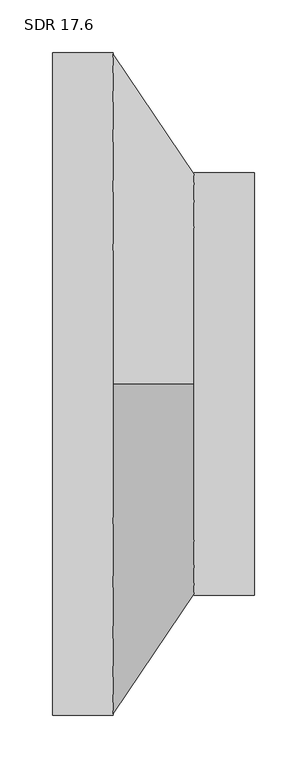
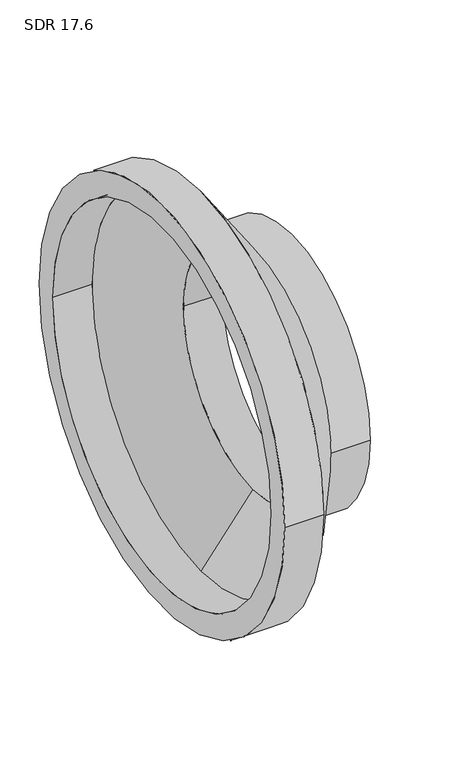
"""IFC4 building model written with IfcOpenShell, lengths in millimetres: pipe fitting geometry, Aquatherm - Reducing Coupling Combined - METRIC : SDR 17.6."""

from ifc_helpers import new_model, si_unit, frame, origin, place, context, project, spatial, polyline, circle_curve, source, transform, mapped, element, save
from ifc_brep_helpers import plane_surface, cylinder_surface, revolved_surface, advanced_brep


def sdr_17_6_ab0138cd(model_context):
    return source(origin(), model_context, "Body", "AdvancedBrep", [
        advanced_brep(
        [(-96.012, -314.96, 0.0), (-96.012, 314.96, 0.0), (-96.012, -279.1690909, 0.0), (-96.012, 279.1690909, 0.0), (-38.4048, 279.1690909, 0.0), (-38.4048, 0.0, 279.1690909), (-38.4048, -279.1690909, 0.0), (-38.4048, 0.0, -279.1690909), (-38.4048, 314.96, 0.0), (-38.4048, 0.0, -314.96), (-38.4048, -314.96, 0.0), (-38.4048, 0.0, 314.96), (96.012, -200.66, 0.0), (96.012, 200.66, 0.0), (96.012, -177.8577273, 0.0), (96.012, 177.8577273, 0.0), (38.4048, -200.66, 0.0), (38.4048, 0.0, -200.66), (38.4048, 200.66, 0.0), (38.4048, 0.0, 200.66), (38.4048, -177.8577273, 0.0), (38.4048, 0.0, 177.8577273), (38.4048, 177.8577273, 0.0), (38.4048, 0.0, -177.8577273)],
        [
            (0, 1, circle_curve(frame((-96.012, 0.0, 0.0), z_axis=(-1.0, 0.0, 0.0), x_axis=(0.0, 1.0, 0.0)), 314.96)),
            (1, 0, circle_curve(frame((-96.012, 0.0, 0.0), z_axis=(-1.0, 0.0, 0.0), x_axis=(0.0, 1.0, 0.0)), 314.96)),
            (2, 3, circle_curve(frame((-96.012, 0.0, 0.0), z_axis=(1.0, 0.0, 0.0), x_axis=(0.0, 1.0, 0.0)), 279.1690909)),
            (3, 2, circle_curve(frame((-96.012, 0.0, 0.0), z_axis=(1.0, 0.0, 0.0), x_axis=(0.0, 1.0, 0.0)), 279.1690909)),
            (3, 4),
            (4, 5, circle_curve(frame((-38.4048, 0.0, 0.0), z_axis=(1.0, 0.0, 0.0), x_axis=(0.0, 1.0, 0.0)), 279.1690909)),
            (5, 6, circle_curve(frame((-38.4048, 0.0, 0.0), z_axis=(1.0, 0.0, 0.0), x_axis=(0.0, 1.0, 0.0)), 279.1690909)),
            (6, 2),
            (6, 7, circle_curve(frame((-38.4048, 0.0, 0.0), z_axis=(1.0, 0.0, 0.0), x_axis=(0.0, 1.0, 0.0)), 279.1690909)),
            (7, 4, circle_curve(frame((-38.4048, 0.0, 0.0), z_axis=(1.0, 0.0, 0.0), x_axis=(0.0, 1.0, 0.0)), 279.1690909)),
            (1, 8),
            (8, 9, circle_curve(frame((-38.4048, 0.0, 0.0), z_axis=(-1.0, 0.0, 0.0), x_axis=(0.0, 1.0, 0.0)), 314.96)),
            (9, 10, circle_curve(frame((-38.4048, 0.0, 0.0), z_axis=(-1.0, 0.0, 0.0), x_axis=(0.0, 1.0, 0.0)), 314.96)),
            (10, 0),
            (10, 11, circle_curve(frame((-38.4048, 0.0, 0.0), z_axis=(-1.0, 0.0, 0.0), x_axis=(0.0, 1.0, 0.0)), 314.96)),
            (11, 8, circle_curve(frame((-38.4048, 0.0, 0.0), z_axis=(-1.0, 0.0, 0.0), x_axis=(0.0, 1.0, 0.0)), 314.96)),
            (12, 13, circle_curve(frame((96.012, 0.0, 0.0), z_axis=(1.0, 0.0, 0.0), x_axis=(0.0, 1.0, 0.0)), 200.66)),
            (13, 12, circle_curve(frame((96.012, 0.0, 0.0), z_axis=(1.0, 0.0, 0.0), x_axis=(0.0, 1.0, 0.0)), 200.66)),
            (14, 15, circle_curve(frame((96.012, 0.0, 0.0), z_axis=(-1.0, 0.0, 0.0), x_axis=(0.0, 1.0, 0.0)), 177.8577273)),
            (15, 14, circle_curve(frame((96.012, 0.0, 0.0), z_axis=(-1.0, 0.0, 0.0), x_axis=(0.0, 1.0, 0.0)), 177.8577273)),
            (12, 16),
            (16, 17, circle_curve(frame((38.4048, 0.0, 0.0), z_axis=(1.0, 0.0, 0.0), x_axis=(0.0, 1.0, 0.0)), 200.66)),
            (17, 18, circle_curve(frame((38.4048, 0.0, 0.0), z_axis=(1.0, 0.0, 0.0), x_axis=(0.0, 1.0, 0.0)), 200.66)),
            (18, 13),
            (18, 19, circle_curve(frame((38.4048, 0.0, 0.0), z_axis=(1.0, 0.0, 0.0), x_axis=(0.0, 1.0, 0.0)), 200.66)),
            (19, 16, circle_curve(frame((38.4048, 0.0, 0.0), z_axis=(1.0, 0.0, 0.0), x_axis=(0.0, 1.0, 0.0)), 200.66)),
            (14, 20),
            (20, 21, circle_curve(frame((38.4048, 0.0, 0.0), z_axis=(-1.0, 0.0, 0.0), x_axis=(0.0, 1.0, 0.0)), 177.8577273)),
            (21, 22, circle_curve(frame((38.4048, 0.0, 0.0), z_axis=(-1.0, 0.0, 0.0), x_axis=(0.0, 1.0, 0.0)), 177.8577273)),
            (22, 15),
            (22, 23, circle_curve(frame((38.4048, 0.0, 0.0), z_axis=(-1.0, 0.0, 0.0), x_axis=(0.0, 1.0, 0.0)), 177.8577273)),
            (23, 20, circle_curve(frame((38.4048, 0.0, 0.0), z_axis=(-1.0, 0.0, 0.0), x_axis=(0.0, 1.0, 0.0)), 177.8577273)),
            (11, 19),
            (17, 9),
            (21, 5),
            (7, 23),
        ],
        [
            plane_surface(frame((-96.012, 279.1690909, 0.0), z_axis=(-1.0, 0.0, 0.0), x_axis=(0.0, 0.0, 1.0))),
            revolved_surface(polyline([(-96.012, 279.1690909, 0.0), (-38.4048, 279.1690909, 0.0)]), (-96.012, 0.0, 0.0), (-1.0, 0.0, 0.0)),
            cylinder_surface(frame((0.0, 0.0, 0.0), z_axis=(1.0, 0.0, 0.0), x_axis=(0.0, 1.0, 0.0)), 314.96),
            plane_surface(frame((96.012, 200.66, 0.0), z_axis=(1.0, 0.0, 0.0), x_axis=(0.0, 0.0, 1.0))),
            cylinder_surface(frame((38.4048, 0.0, 0.0), z_axis=(1.0, 0.0, 0.0), x_axis=(0.0, 1.0, 0.0)), 200.66),
            revolved_surface(polyline([(38.4048, 177.8577273, 0.0), (96.012, 177.8577273, 0.0)]), (0.0, 0.0, 0.0), (-1.0, 0.0, 0.0)),
            revolved_surface(polyline([(38.4048, 0.0, 200.66), (-38.4048, 0.0, 314.96)]), (-671.2715384, 0.0, 0.0), (-1.0, 0.0, 0.0)),
            revolved_surface(polyline([(-38.4048, 0.0, 279.1690909), (38.4048, 0.0, 177.8577273)]), (-671.2715384, 0.0, 0.0), (-1.0, 0.0, 0.0)),
        ],
        [
            (0, [[1, 2], [3, 4]]),
            (1, [[-4, 5, 6, 7, 8]]),
            (1, [[-3, -8, 9, 10, -5]]),
            (2, [[-2, 11, 12, 13, 14]]),
            (2, [[-1, -14, 15, 16, -11]]),
            (3, [[17, 18], [19, 20]]),
            (4, [[-17, 21, 22, 23, 24]]),
            (4, [[-18, -24, 25, 26, -21]]),
            (5, [[-19, 27, 28, 29, 30]]),
            (5, [[-20, -30, 31, 32, -27]]),
            (6, [[33, -25, -23, 34, -12, -16]]),
            (6, [[-33, -15, -13, -34, -22, -26]]),
            (7, [[35, -6, -10, 36, -31, -29]]),
            (7, [[-35, -28, -32, -36, -9, -7]]),
        ],
    ),
    ])


if __name__ == "__main__":
    model = new_model("IFC4")
    model_context = context("Model", 3, world=origin())
    ifc_project = project(units=[si_unit("LENGTHUNIT", "METRE", prefix="MILLI")], contexts=[model_context])
    site = spatial("IfcSite", under=ifc_project)
    building = spatial("IfcBuilding", under=site)
    placement = place(None, origin())
    sdr_17_6_shape = sdr_17_6_ab0138cd(model_context)
    element("IfcPipeFitting", 1, ObjectType="Aquatherm - Reducing Coupling Combined - METRIC : SDR 17.6", at=placement, inside=building, context=model_context, shape_type="MappedRepresentation", body=[
        mapped(sdr_17_6_shape, transform((0.0, 0.0, 0.0), x_axis=(1.0, 0.0, 0.0), y_axis=(0.0, 1.0, 0.0), z_axis=(0.0, 0.0, 1.0))),
    ])
    save(model, "model.ifc")
